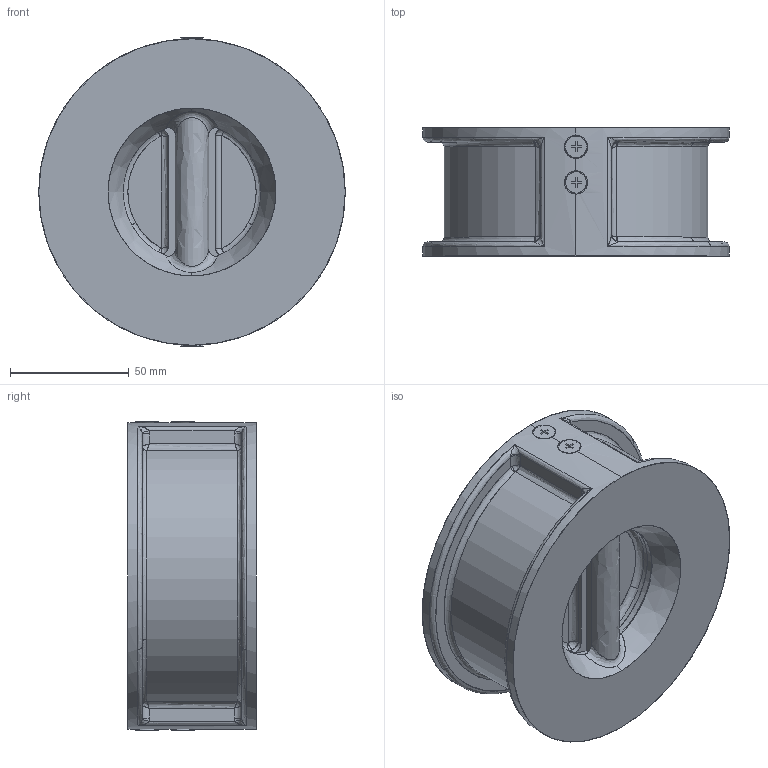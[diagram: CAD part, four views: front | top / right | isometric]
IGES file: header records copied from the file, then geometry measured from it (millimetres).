
Start section: SolidWorks IGES file using analytic representation for surfaces
Global section: file name: C:\Users\Administrator\Desktop\temp\00.IGS; native system: SolidWorks 2015; preprocessor: SolidWorks 2015; author: Administrator; date: 170402.164226; units: millimetre
Bounding box: 129 x 54 x 129.73 mm (x, y, z)
Surface area: 89556.5 mm2 (no closed solid volume)
Topology: 0 solids, 0 shells, 432 faces, 5174 edges, 5148 vertices
Faces by surface type: bspline 268, revolution 164
